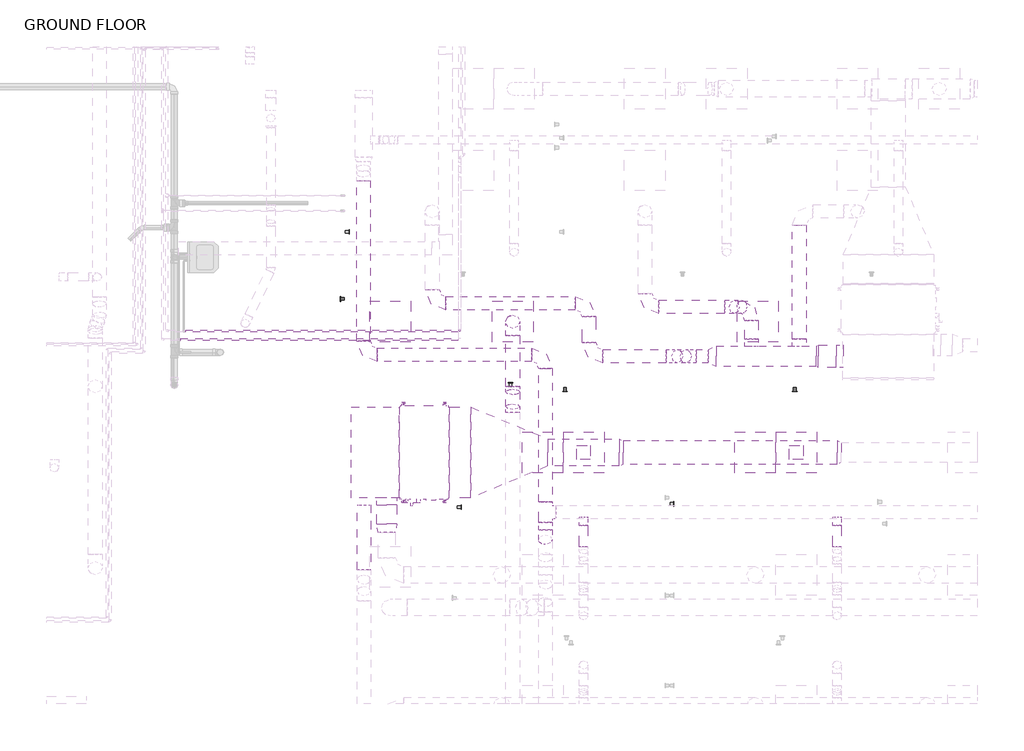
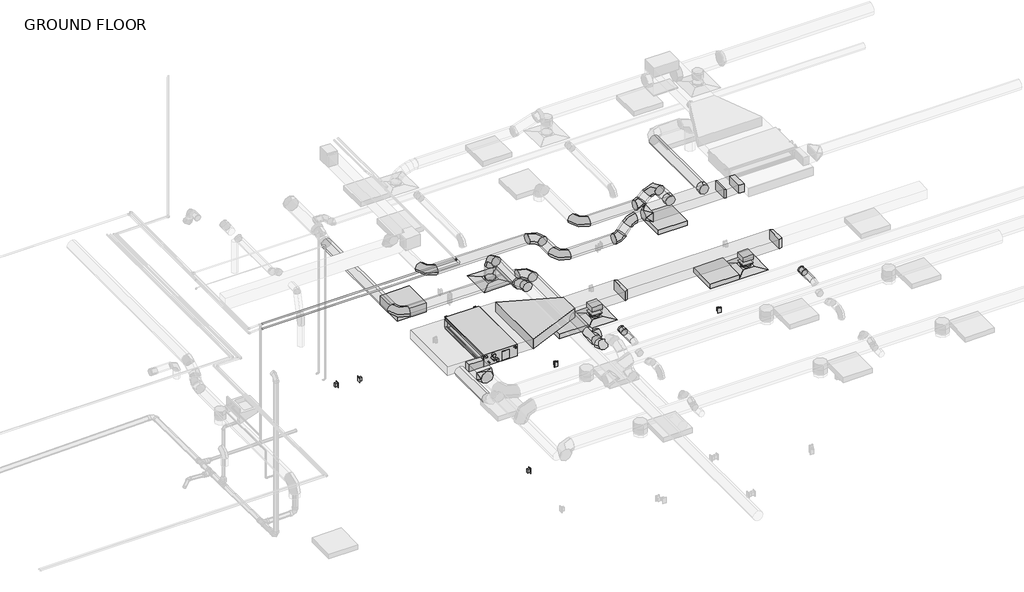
# One storey, part 15 of 22: 31 duct fittings, 28 duct segments, 4 light fixtures, 4 proxies, 3 air terminals, 3 switching devices, 2 pipe segments, 1 electric appliance, 1 pipe fitting.
"""IFC4 building model written with IfcOpenShell, lengths in millimetres."""

from ifc_helpers import new_model, si_unit, point, frame, frame_2d, origin, place, context, project, spatial, polyline, circle_curve, trimmed, segment, composite_curve, outline, extrude, transform, mapped, element, save
from components import air_terminal_e9020785, mechanical_equipment_d478180c, duplex_receptacle_countertop_10251bba, rectangular_takeoff_standard_68f80ab3, rectangular_takeoff_standard_d07ea574, rectangular_takeoff_standard_fde45e03, rectangular_transition_angle_45_degree_0521c937, rectangular_transition_angle_45_degree_85914557, rectangular_transition_angle_45_degree_791ae252, rectangular_transition_angle_45_degree_a1440fe9, rectangular_to_round_transition_angle_45_degree_5a025447, rectangular_to_round_transition_angle_45_degree_f8b25ec9, rectangular_to_round_transition_angle_45_degree_789dc1ad, round_elbow_1_d_fe38274b, round_elbow_1_d_20ab3410, round_elbow_1_d_a253342a, round_elbow_1_d_ab3aa7ba, round_takeoff_standard_d3b0d0f9, round_takeoff_standard_272bb003, round_tee_standard_4a79b710, telephone_outlet_data_plain_18c24199, troffer_corner_insert_2x2_3_lamp_emergency_29e3a813, troffer_corner_insert_2x2_3lamp_e67c7f8f, elbow_generic_standard_c06ac706

model = new_model("IFC4")

# Units and contexts
model_context = context("Model", 3, world=origin())
ifc_project = project(units=[si_unit("LENGTHUNIT", "METRE", prefix="MILLI")], contexts=[model_context])

# Site, building, storey
site = spatial("IfcSite", under=ifc_project)
building = spatial("IfcBuilding", under=site)
storey = spatial("IfcBuildingStorey", under=building, Name="GROUND FLOOR", Elevation=30480.0)

# Air terminals
placement = place(None, origin())
air_terminal_shape = air_terminal_e9020785(model_context)
element("IfcAirTerminal", 1, ObjectType="Supply Diffuser - Rectangular Face Round Neck - Hosted : 24\"x24\" Face 8\" Neck - Hosted", at=placement, inside=storey, context=model_context, shape_type="MappedRepresentation", body=[
    mapped(air_terminal_shape, transform((-799.1454607, 1382.1195005, 33223.2), x_axis=(0.0, -1.0, 0.0), y_axis=(-1.0, 0.0, 0.0), z_axis=(0.0, 0.0, -1.0))),
])
element("IfcAirTerminal", 2, ObjectType="Supply Diffuser - Rectangular Face Round Neck - Hosted : 24\"x24\" Face 8\" Neck - Hosted", at=placement, inside=storey, context=model_context, shape_type="MappedRepresentation", body=[
    mapped(air_terminal_shape, transform((-3970.9704607, 1382.1195005, 33223.2), x_axis=(0.0, -1.0, 0.0), y_axis=(-1.0, 0.0, 0.0), z_axis=(0.0, 0.0, -1.0))),
])
element("IfcAirTerminal", 3, ObjectType="Supply Diffuser - Rectangular Face Round Neck - Hosted : 24\"x24\" Face 8\" Neck - Hosted", at=placement, inside=storey, context=model_context, shape_type="MappedRepresentation", body=[
    mapped(air_terminal_shape, transform((-5028.2454607, 3334.7445005, 33223.2), x_axis=(0.0, -1.0, 0.0), y_axis=(-1.0, 0.0, 0.0), z_axis=(0.0, 0.0, -1.0))),
])

# Proxies
mechanical_equipment_shape = mechanical_equipment_d478180c(model_context)
element("IfcBuildingElementProxy", 4, Name="PEFY-P-NMAU-E_Medium_Static_Ducted : PEFY-P36NMAU-E", ObjectType="PEFY-P-NMAU-E_Medium_Static_Ducted : PEFY-P36NMAU-E", at=placement, inside=storey, context=model_context, shape_type="MappedRepresentation", body=[
    mapped(mechanical_equipment_shape, transform((-6407.5018914, 1372.1072576, 33458.15), x_axis=(0.0, -1.0, 0.0), y_axis=(1.0, 0.0, 0.0), z_axis=(0.0, 0.0, 1.0))),
])
duplex_receptacle_countertop_shape = duplex_receptacle_countertop_10251bba(model_context)
element("IfcBuildingElementProxy", 5, Name="Duplex Receptacle : Countertop", ObjectType="Duplex Receptacle : Countertop", at=placement, inside=storey, context=model_context, shape_type="MappedRepresentation", body=[
    mapped(duplex_receptacle_countertop_shape, transform((-7469.8204607, 4677.7695005, 30937.2), x_axis=(0.0, 1.0, 0.0), y_axis=(0.0, 0.0, 1.0), z_axis=(1.0, 0.0, 0.0))),
])
element("IfcBuildingElementProxy", 6, Name="Duplex Receptacle : Standard", ObjectType="Duplex Receptacle : Standard", at=placement, inside=storey, context=model_context, shape_type="MappedRepresentation", body=[
    mapped(duplex_receptacle_countertop_shape, transform((-5799.7704607, 567.377149, 30937.2), x_axis=(0.0, 1.0, 0.0), y_axis=(0.0, 0.0, 1.0), z_axis=(1.0, 0.0, 0.0))),
])
element("IfcBuildingElementProxy", 7, Name="Duplex Receptacle : Standard", ObjectType="Duplex Receptacle : Standard", at=placement, inside=storey, context=model_context, shape_type="MappedRepresentation", body=[
    mapped(duplex_receptacle_countertop_shape, transform((-5062.4392218, 2420.3445005, 30937.2), x_axis=(-1.0, 0.0, 0.0), y_axis=(0.0, 0.0, 1.0), z_axis=(0.0, 1.0, 0.0))),
])

# Duct fittings
rectangular_takeoff_standard_shape = rectangular_takeoff_standard_68f80ab3(model_context)
element("IfcDuctFitting", 8, ObjectType="Rectangular Takeoff : Standard", at=placement, inside=storey, context=model_context, shape_type="MappedRepresentation", body=[
    mapped(rectangular_takeoff_standard_shape, transform((-101.8689282, 2818.301218, 33947.89375), x_axis=(-1.0, 0.0, 0.0), y_axis=(0.0, 1.0, 0.0), z_axis=(0.0, 0.0, -1.0))),
])
rectangular_takeoff_standard_2_shape = rectangular_takeoff_standard_d07ea574(model_context)
element("IfcDuctFitting", 9, ObjectType="Rectangular Takeoff : Standard", at=placement, inside=storey, context=model_context, shape_type="MappedRepresentation", body=[
    mapped(rectangular_takeoff_standard_2_shape, transform((-799.1454607, 1382.1195005, 33502.6), x_axis=(0.0, 0.0, -1.0), y_axis=(1.0, 0.0, 0.0), z_axis=(0.0, -1.0, 0.0))),
])
element("IfcDuctFitting", 10, ObjectType="Rectangular Takeoff : Standard", at=placement, inside=storey, context=model_context, shape_type="MappedRepresentation", body=[
    mapped(rectangular_takeoff_standard_2_shape, transform((-3970.9704607, 1382.1195005, 33502.6), x_axis=(0.0, 0.0, -1.0), y_axis=(1.0, 0.0, 0.0), z_axis=(0.0, -1.0, 0.0))),
])
rectangular_takeoff_standard_3_shape = rectangular_takeoff_standard_fde45e03(model_context)
element("IfcDuctFitting", 11, ObjectType="Rectangular Takeoff : Standard", at=placement, inside=storey, context=model_context, shape_type="MappedRepresentation", body=[
    mapped(rectangular_takeoff_standard_3_shape, transform((-6907.4143044, 704.2570005, 33617.69375), x_axis=(0.0, -1.0, 0.0), y_axis=(-1.0, 0.0, 0.0), z_axis=(0.0, 0.0, -1.0))),
])
rectangular_transition_angle_45_degree_shape = rectangular_transition_angle_45_degree_0521c937(model_context)
element("IfcDuctFitting", 12, ObjectType="Rectangular Transition - Angle : 45 Degree", at=placement, inside=storey, context=model_context, shape_type="MappedRepresentation", body=[
    mapped(rectangular_transition_angle_45_degree_shape, transform((-471.6175144, 2818.301218, 33947.89375), x_axis=(-1.0, 0.0, 0.0), y_axis=(0.0, -1.0, 0.0), z_axis=(0.0, 0.0, 1.0))),
])
rectangular_transition_angle_45_degree_2_shape = rectangular_transition_angle_45_degree_85914557(model_context)
element("IfcDuctFitting", 13, ObjectType="Rectangular Transition - Angle : 45 Degree", at=placement, inside=storey, context=model_context, shape_type="MappedRepresentation", body=[
    mapped(rectangular_transition_angle_45_degree_2_shape, transform((-5651.3200089, 1382.1195005, 33604.2), x_axis=(1.0, 0.0, 0.0), y_axis=(0.0, 1.0, 0.0), z_axis=(0.0, 0.0, 1.0))),
])
rectangular_transition_angle_45_degree_3_shape = rectangular_transition_angle_45_degree_791ae252(model_context)
element("IfcDuctFitting", 14, ObjectType="Rectangular Transition - Angle : 45 Degree", at=placement, inside=storey, context=model_context, shape_type="MappedRepresentation", body=[
    mapped(rectangular_transition_angle_45_degree_3_shape, transform((-3441.5200089, 1382.1195005, 33604.2), x_axis=(1.0, 0.0, 0.0), y_axis=(0.0, 1.0, 0.0), z_axis=(0.0, 0.0, 1.0))),
])
rectangular_transition_angle_45_degree_4_shape = rectangular_transition_angle_45_degree_a1440fe9(model_context)
element("IfcDuctFitting", 15, ObjectType="Rectangular Transition - Angle : 45 Degree", at=placement, inside=storey, context=model_context, shape_type="MappedRepresentation", body=[
    mapped(rectangular_transition_angle_45_degree_4_shape, transform((-189.5454607, 1382.1195005, 33604.2), x_axis=(1.0, 0.0, 0.0), y_axis=(0.0, 1.0, 0.0), z_axis=(0.0, 0.0, 1.0))),
])
rectangular_to_round_transition_angle_45_degree_shape = rectangular_to_round_transition_angle_45_degree_5a025447(model_context)
element("IfcDuctFitting", 16, ObjectType="Rectangular to Round Transition - Angle : 45 Degree", at=placement, inside=storey, context=model_context, shape_type="MappedRepresentation", body=[
    mapped(rectangular_to_round_transition_angle_45_degree_shape, transform((-799.1454607, 1382.1195005, 33327.975), x_axis=(0.0, 0.0, -1.0), y_axis=(1.0, 0.0, 0.0), z_axis=(0.0, -1.0, 0.0))),
])
element("IfcDuctFitting", 17, ObjectType="Rectangular to Round Transition - Angle : 45 Degree", at=placement, inside=storey, context=model_context, shape_type="MappedRepresentation", body=[
    mapped(rectangular_to_round_transition_angle_45_degree_shape, transform((-3970.9704607, 1382.1195005, 33327.975), x_axis=(0.0, 0.0, -1.0), y_axis=(1.0, 0.0, 0.0), z_axis=(0.0, -1.0, 0.0))),
])
rectangular_to_round_transition_angle_45_degree_2_shape = rectangular_to_round_transition_angle_45_degree_f8b25ec9(model_context)
element("IfcDuctFitting", 18, ObjectType="Rectangular to Round Transition - Angle : 45 Degree", at=placement, inside=storey, context=model_context, shape_type="MappedRepresentation", body=[
    mapped(rectangular_to_round_transition_angle_45_degree_2_shape, transform((-1989.2675144, 2818.301218, 33947.89375), x_axis=(-1.0, 0.0, 0.0), y_axis=(0.0, -1.0, 0.0), z_axis=(0.0, 0.0, 1.0))),
])
rectangular_to_round_transition_angle_45_degree_3_shape = rectangular_to_round_transition_angle_45_degree_789dc1ad(model_context)
element("IfcDuctFitting", 19, ObjectType="Rectangular to Round Transition - Angle : 45 Degree", at=placement, inside=storey, context=model_context, shape_type="MappedRepresentation", body=[
    mapped(rectangular_to_round_transition_angle_45_degree_3_shape, transform((-6907.4143044, 315.3195005, 33617.69375), x_axis=(0.0, -1.0, 0.0), y_axis=(1.0, 0.0, 0.0), z_axis=(0.0, 0.0, 1.0))),
])
round_elbow_1_d_shape = round_elbow_1_d_fe38274b(model_context)
element("IfcDuctFitting", 20, ObjectType="Round Elbow : 1 D", at=placement, inside=storey, context=model_context, shape_type="MappedRepresentation", body=[
    mapped(round_elbow_1_d_shape, transform((-2636.3455027, 2818.301218, 33629.6), x_axis=(1.0, 0.0, 0.0), y_axis=(0.0, 0.0, 1.0), z_axis=(0.0, -1.0, 0.0))),
])
element("IfcDuctFitting", 21, ObjectType="Round Elbow : 1 D", at=placement, inside=storey, context=model_context, shape_type="MappedRepresentation", body=[
    mapped(round_elbow_1_d_shape, transform((-2387.6671708, 2818.301218, 33947.89375), x_axis=(0.6156614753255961, 0.0, 0.7880107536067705), y_axis=(0.7880107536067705, 0.0, -0.6156614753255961), z_axis=(0.0, 1.0, 0.0))),
])
round_elbow_1_d_2_shape = round_elbow_1_d_20ab3410(model_context)
element("IfcDuctFitting", 22, ObjectType="Round Elbow : 1 D", at=placement, inside=storey, context=model_context, shape_type="MappedRepresentation", body=[
    mapped(round_elbow_1_d_2_shape, transform((-5028.2454607, 2325.0945005, 33743.160826), x_axis=(0.0, -1.0, 0.0), y_axis=(0.0, 0.0, 1.0), z_axis=(-1.0, 0.0, 0.0))),
])
element("IfcDuctFitting", 23, ObjectType="Round Elbow : 1 D", at=placement, inside=storey, context=model_context, shape_type="MappedRepresentation", body=[
    mapped(round_elbow_1_d_2_shape, transform((-5028.2454607, 2026.1149962, 33877.25), x_axis=(0.0, -0.9124365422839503, 0.4092182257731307), y_axis=(0.0, -0.4092182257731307, -0.9124365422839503), z_axis=(1.0, 0.0, 0.0))),
])
round_elbow_1_d_3_shape = round_elbow_1_d_a253342a(model_context)
element("IfcDuctFitting", 24, ObjectType="Round Elbow : 1 D", at=placement, inside=storey, context=model_context, shape_type="MappedRepresentation", body=[
    mapped(round_elbow_1_d_3_shape, transform((-5028.2454607, 3334.7445005, 33743.160826), x_axis=(0.0, 0.0, 1.0), y_axis=(0.0, -1.0, 0.0), z_axis=(1.0, 0.0, 0.0))),
])
element("IfcDuctFitting", 25, ObjectType="Round Elbow : 1 D", at=placement, inside=storey, context=model_context, shape_type="MappedRepresentation", body=[
    mapped(round_elbow_1_d_3_shape, transform((-6228.3954607, 3610.9695005, 33629.6), x_axis=(0.0, -1.0, 0.0), y_axis=(1.0, 0.0, 0.0), z_axis=(0.0, 0.0, 1.0))),
])
element("IfcDuctFitting", 26, ObjectType="Round Elbow : 1 D", at=placement, inside=storey, context=model_context, shape_type="MappedRepresentation", body=[
    mapped(round_elbow_1_d_3_shape, transform((-3891.5954607, 3610.9695005, 33629.6), x_axis=(0.0, 1.0, 0.0), y_axis=(-1.0, 0.0, 0.0), z_axis=(0.0, 0.0, 1.0))),
])
element("IfcDuctFitting", 27, ObjectType="Round Elbow : 1 D", at=placement, inside=storey, context=model_context, shape_type="MappedRepresentation", body=[
    mapped(round_elbow_1_d_3_shape, transform((-3891.5954607, 2818.301218, 33629.6), x_axis=(0.0, -1.0, 0.0), y_axis=(1.0, 0.0, 0.0), z_axis=(0.0, 0.0, 1.0))),
])
element("IfcDuctFitting", 28, ObjectType="Round Elbow : 1 D", at=placement, inside=storey, context=model_context, shape_type="MappedRepresentation", body=[
    mapped(round_elbow_1_d_3_shape, transform((-4541.976464, 2841.896647, 33528.0), x_axis=(0.0, 1.0, 0.0), y_axis=(-1.0, 0.0, 0.0), z_axis=(0.0, 0.0, 1.0))),
])
element("IfcDuctFitting", 29, ObjectType="Round Elbow : 1 D", at=placement, inside=storey, context=model_context, shape_type="MappedRepresentation", body=[
    mapped(round_elbow_1_d_3_shape, transform((-7253.9204607, 2841.896647, 33528.0), x_axis=(0.0, -1.0, 0.0), y_axis=(1.0, 0.0, 0.0), z_axis=(0.0, 0.0, 1.0))),
])
element("IfcDuctFitting", 30, ObjectType="Round Elbow : 1 D", at=placement, inside=storey, context=model_context, shape_type="MappedRepresentation", body=[
    mapped(round_elbow_1_d_3_shape, transform((-3056.5704607, 3554.901218, 33629.6), x_axis=(0.0, -1.0, 0.0), y_axis=(1.0, 0.0, 0.0), z_axis=(0.0, 0.0, 1.0))),
])
element("IfcDuctFitting", 31, ObjectType="Round Elbow : 1 D", at=placement, inside=storey, context=model_context, shape_type="MappedRepresentation", body=[
    mapped(round_elbow_1_d_3_shape, transform((-1465.5538665, 3554.901218, 33947.89375), x_axis=(0.7071067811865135, 0.0, 0.7071067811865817), y_axis=(0.0, -1.0000000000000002, 0.0), z_axis=(0.7071067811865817, 0.0, -0.7071067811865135))),
])
round_elbow_1_d_4_shape = round_elbow_1_d_ab3aa7ba(model_context)
element("IfcDuctFitting", 32, ObjectType="Round Elbow : 1 D", at=placement, inside=storey, context=model_context, shape_type="MappedRepresentation", body=[
    mapped(round_elbow_1_d_4_shape, transform((-4541.976464, 139.5450374, 33528.0), x_axis=(0.0, 0.7071067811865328, -0.7071067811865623), y_axis=(0.0, 0.7071067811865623, 0.7071067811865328), z_axis=(1.0, 0.0, 0.0))),
])
element("IfcDuctFitting", 33, ObjectType="Round Elbow : 1 D", at=placement, inside=storey, context=model_context, shape_type="MappedRepresentation", body=[
    mapped(round_elbow_1_d_4_shape, transform((-1783.8476165, 3554.901218, 33629.6), x_axis=(-0.7071067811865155, 0.0, -0.7071067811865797), y_axis=(-0.7071067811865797, 0.0, 0.7071067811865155), z_axis=(0.0, 1.0, 0.0))),
])
round_takeoff_standard_shape = round_takeoff_standard_d3b0d0f9(model_context)
element("IfcDuctFitting", 34, ObjectType="Round Takeoff : Standard", at=placement, inside=storey, context=model_context, shape_type="MappedRepresentation", body=[
    mapped(round_takeoff_standard_shape, transform((-754.6339071, 2970.701218, 33947.89375), x_axis=(0.0, 1.0, 0.0), y_axis=(1.0, 0.0, 0.0), z_axis=(0.0, 0.0, -1.0))),
])
element("IfcDuctFitting", 35, ObjectType="Round Takeoff : Standard", at=placement, inside=storey, context=model_context, shape_type="MappedRepresentation", body=[
    mapped(round_takeoff_standard_shape, transform((-1465.5538665, 2970.701218, 33947.89375), x_axis=(0.0, 1.0, 0.0), y_axis=(1.0, 0.0, 0.0), z_axis=(0.0, 0.0, -1.0))),
])
round_takeoff_standard_2_shape = round_takeoff_standard_272bb003(model_context)
element("IfcDuctFitting", 36, ObjectType="Round Takeoff : Standard", at=placement, inside=storey, context=model_context, shape_type="MappedRepresentation", body=[
    mapped(round_takeoff_standard_2_shape, transform((-3970.9704607, 391.7414929, 33528.0), x_axis=(0.0, -1.0, 0.0), y_axis=(-1.0, 0.0, 0.0), z_axis=(0.0, 0.0, -1.0))),
])
element("IfcDuctFitting", 37, ObjectType="Round Takeoff : Standard", at=placement, inside=storey, context=model_context, shape_type="MappedRepresentation", body=[
    mapped(round_takeoff_standard_2_shape, transform((-189.5454607, 391.7414929, 33528.0), x_axis=(0.0, -1.0, 0.0), y_axis=(-1.0, 0.0, 0.0), z_axis=(0.0, 0.0, -1.0))),
])
round_tee_standard_shape = round_tee_standard_4a79b710(model_context)
element("IfcDuctFitting", 38, ObjectType="Round Tee : Standard", at=placement, inside=storey, context=model_context, shape_type="MappedRepresentation", body=[
    mapped(round_tee_standard_shape, transform((-4541.976464, 493.3414929, 33528.0), x_axis=(0.0, 1.0, 0.0), y_axis=(-1.0, 0.0, 0.0), z_axis=(0.0, 0.0, 1.0))),
])

# Duct segments
element("IfcDuctSegment", 39, ObjectType="Mitered Elbows / Taps", at=placement, inside=storey, context=model_context, shape_type="SweptSolid", body=[
    extrude(outline(polyline([(-6725.0018914, 2059.9820005), (-6725.0018914, 704.2570005), (-7438.8450089, 704.2570005), (-7438.8450089, 2059.9820005), (-6725.0018914, 2059.9820005)])), frame((0.0, 0.0, 33528.0), z_axis=(0.0, 0.0, 1.0), x_axis=(1.0, 0.0, 0.0)), (0.0, 0.0, 1.0), 179.3875),
])
element("IfcDuctSegment", 40, ObjectType="Mitered Elbows / Taps", at=placement, inside=storey, context=model_context, shape_type="SweptSolid", body=[
    extrude(outline(polyline([(-5978.8768914, 704.2570005), (-5978.8768914, 2059.9820005), (-5651.3200089, 2059.9820005), (-5651.3200089, 704.2570005), (-5978.8768914, 704.2570005)])), frame((0.0, 0.0, 33501.0125), z_axis=(0.0, 0.0, 1.0), x_axis=(1.0, 0.0, 0.0)), (0.0, 0.0, 1.0), 206.375),
])
element("IfcDuctSegment", 41, ObjectType="Mitered Elbows / Taps", at=placement, inside=storey, context=model_context, shape_type="SweptSolid", body=[
    extrude(outline(polyline([(-4505.3833638, 1178.9195005), (-4505.3833638, 1585.3195005), (-3441.5200089, 1585.3195005), (-3441.5200089, 1178.9195005), (-4505.3833638, 1178.9195005)])), frame((0.0, 0.0, 33502.6), z_axis=(0.0, 0.0, 1.0), x_axis=(1.0, 0.0, 0.0)), (0.0, 0.0, 1.0), 203.2),
])
element("IfcDuctSegment", 42, ObjectType="Mitered Elbows / Taps", at=placement, inside=storey, context=model_context, shape_type="SweptSolid", body=[
    extrude(outline(polyline([(-3380.1989844, 1204.3195005), (-3380.1989844, 1559.9195005), (-189.5454607, 1559.9195005), (-189.5454607, 1204.3195005), (-3380.1989844, 1204.3195005)])), frame((0.0, 0.0, 33502.6), z_axis=(0.0, 0.0, 1.0), x_axis=(1.0, 0.0, 0.0)), (0.0, 0.0, 1.0), 203.2),
])
element("IfcDuctSegment", 43, ObjectType="Mitered Elbows / Taps", at=placement, inside=storey, context=model_context, shape_type="SweptSolid", body=[
    extrude(outline(polyline([(-900.7454607, 1483.7195005), (-697.5454607, 1483.7195005), (-697.5454607, 1280.5195005), (-900.7454607, 1280.5195005), (-900.7454607, 1483.7195005)])), frame((0.0, 0.0, 33327.975), z_axis=(0.0, 0.0, 1.0), x_axis=(1.0, 0.0, 0.0)), (0.0, 0.0, 1.0), 73.025),
])
element("IfcDuctSegment", 44, ObjectType="Mitered Elbows / Taps", at=placement, inside=storey, context=model_context, shape_type="SweptSolid", body=[
    extrude(outline(polyline([(-4072.5704607, 1483.7195005), (-3869.3704607, 1483.7195005), (-3869.3704607, 1280.5195005), (-4072.5704607, 1280.5195005), (-4072.5704607, 1483.7195005)])), frame((0.0, 0.0, 33327.975), z_axis=(0.0, 0.0, 1.0), x_axis=(1.0, 0.0, 0.0)), (0.0, 0.0, 1.0), 73.025),
])
element("IfcDuctSegment", 45, ObjectType="Mitered Elbows / Taps", at=placement, inside=storey, context=model_context, shape_type="SweptSolid", body=[
    extrude(outline(polyline([(-1989.2675144, 2665.901218), (-1989.2675144, 2970.701218), (-502.2780266, 2970.701218), (-502.2780266, 2665.901218), (-1989.2675144, 2665.901218)])), frame((0.0, 0.0, 33846.29375), z_axis=(0.0, 0.0, 1.0), x_axis=(1.0, 0.0, 0.0)), (0.0, 0.0, 1.0), 203.2),
])
element("IfcDuctSegment", 46, ObjectType="Mitered Elbows / Taps", at=placement, inside=storey, context=model_context, shape_type="SweptSolid", body=[
    extrude(outline(polyline([(-7059.8143044, 602.6570005), (-6755.0143044, 602.6570005), (-6755.0143044, 315.3195005), (-7059.8143044, 315.3195005), (-7059.8143044, 602.6570005)])), frame((0.0, 0.0, 33541.49375), z_axis=(0.0, 0.0, 1.0), x_axis=(1.0, 0.0, 0.0)), (0.0, 0.0, 1.0), 152.4),
])
element("IfcDuctSegment", 47, ObjectType="Mitered Elbows / Taps", at=placement, inside=storey, context=model_context, shape_type="SweptSolid", body=[
    extrude(outline(polyline([(-471.6175144, 2653.201218), (-471.6175144, 2983.401218), (-203.4689282, 2983.401218), (-203.4689282, 2653.201218), (-471.6175144, 2653.201218)])), frame((0.0, 0.0, 33858.99375), z_axis=(0.0, 0.0, 1.0), x_axis=(1.0, 0.0, 0.0)), (0.0, 0.0, 1.0), 177.8),
])
element("IfcDuctSegment", 48, ObjectType="Taps / Short Radius", at=placement, inside=storey, context=model_context, shape_type="SweptSolid", body=[
    extrude(outline(composite_curve([segment(trimmed(circle_curve(frame_2d((-5028.2454607, 3334.7445005)), 101.6), [point((-5129.8454607, 3334.7445005))], [point((-5028.2454607, 3436.3445005))], False, "CARTESIAN"), True, "CONTINUOUS"), segment(trimmed(circle_curve(frame_2d((-5028.2454607, 3334.7445005)), 101.6), [point((-5028.2454607, 3436.3445005))], [point((-4926.6454607, 3334.7445005))], False, "CARTESIAN"), True, "CONTINUOUS"), segment(trimmed(circle_curve(frame_2d((-5028.2454607, 3334.7445005)), 101.6), [point((-4926.6454607, 3334.7445005))], [point((-5028.2454607, 3233.1445005))], False, "CARTESIAN"), True, "CONTINUOUS"), segment(trimmed(circle_curve(frame_2d((-5028.2454607, 3334.7445005)), 101.6), [point((-5028.2454607, 3233.1445005))], [point((-5129.8454607, 3334.7445005))], False, "CARTESIAN"), True, "CONTINUOUS")], self_intersect=False)), frame((0.0, 0.0, 33277.175), z_axis=(0.0, 0.0, 1.0), x_axis=(1.0, 0.0, 0.0)), (0.0, 0.0, 1.0), 262.785826),
])
element("IfcDuctSegment", 49, ObjectType="Taps / Short Radius", at=placement, inside=storey, context=model_context, shape_type="SweptSolid", body=[
    extrude(outline(composite_curve([segment(trimmed(circle_curve(frame_2d((3610.9695005, 33629.6)), 101.6), [point((3509.3695005, 33629.6))], [point((3610.9695005, 33731.2))], False, "CARTESIAN"), True, "CONTINUOUS"), segment(trimmed(circle_curve(frame_2d((3610.9695005, 33629.6)), 101.6), [point((3610.9695005, 33731.2))], [point((3712.5695005, 33629.6))], False, "CARTESIAN"), True, "CONTINUOUS"), segment(trimmed(circle_curve(frame_2d((3610.9695005, 33629.6)), 101.6), [point((3712.5695005, 33629.6))], [point((3610.9695005, 33528.0))], False, "CARTESIAN"), True, "CONTINUOUS"), segment(trimmed(circle_curve(frame_2d((3610.9695005, 33629.6)), 101.6), [point((3610.9695005, 33528.0))], [point((3509.3695005, 33629.6))], False, "CARTESIAN"), True, "CONTINUOUS")], self_intersect=False)), frame((-6025.1954607, 0.0, 0.0), z_axis=(1.0, 0.0, 0.0), x_axis=(0.0, 1.0, 0.0)), (0.0, 0.0, 1.0), 1930.4),
])
element("IfcDuctSegment", 50, ObjectType="Taps / Short Radius", at=placement, inside=storey, context=model_context, shape_type="SweptSolid", body=[
    extrude(outline(composite_curve([segment(trimmed(circle_curve(frame_2d((33629.6, -3891.5954607)), 101.6), [point((33629.6, -3993.1954607))], [point((33528.0, -3891.5954607))], False, "CARTESIAN"), True, "CONTINUOUS"), segment(trimmed(circle_curve(frame_2d((33629.6, -3891.5954607)), 101.6), [point((33528.0, -3891.5954607))], [point((33629.6, -3789.9954607))], False, "CARTESIAN"), True, "CONTINUOUS"), segment(trimmed(circle_curve(frame_2d((33629.6, -3891.5954607)), 101.6), [point((33629.6, -3789.9954607))], [point((33731.2, -3891.5954607))], False, "CARTESIAN"), True, "CONTINUOUS"), segment(trimmed(circle_curve(frame_2d((33629.6, -3891.5954607)), 101.6), [point((33731.2, -3891.5954607))], [point((33629.6, -3993.1954607))], False, "CARTESIAN"), True, "CONTINUOUS")], self_intersect=False)), frame((0.0, 3021.501218, 0.0), z_axis=(0.0, 1.0, 0.0), x_axis=(0.0, 0.0, 1.0)), (0.0, 0.0, 1.0), 386.2682826),
])
element("IfcDuctSegment", 51, ObjectType="Taps / Short Radius", at=placement, inside=storey, context=model_context, shape_type="SweptSolid", body=[
    extrude(outline(composite_curve([segment(trimmed(circle_curve(frame_2d((33947.89375, -754.6339071)), 101.6), [point((33947.89375, -856.2339071))], [point((33846.29375, -754.6339071))], False, "CARTESIAN"), True, "CONTINUOUS"), segment(trimmed(circle_curve(frame_2d((33947.89375, -754.6339071)), 101.6), [point((33846.29375, -754.6339071))], [point((33947.89375, -653.0339071))], False, "CARTESIAN"), True, "CONTINUOUS"), segment(trimmed(circle_curve(frame_2d((33947.89375, -754.6339071)), 101.6), [point((33947.89375, -653.0339071))], [point((34049.49375, -754.6339071))], False, "CARTESIAN"), True, "CONTINUOUS"), segment(trimmed(circle_curve(frame_2d((33947.89375, -754.6339071)), 101.6), [point((34049.49375, -754.6339071))], [point((33947.89375, -856.2339071))], False, "CARTESIAN"), True, "CONTINUOUS")], self_intersect=False)), frame((0.0, 3072.301218, 0.0), z_axis=(0.0, 1.0, 0.0), x_axis=(0.0, 0.0, 1.0)), (0.0, 0.0, 1.0), 1707.0682826),
])
element("IfcDuctSegment", 52, ObjectType="Taps / Short Radius", at=placement, inside=storey, context=model_context, shape_type="SweptSolid", body=[
    extrude(outline(composite_curve([segment(trimmed(circle_curve(frame_2d((33617.69375, -7247.6134283)), 101.6), [point((33617.69375, -7349.2134283))], [point((33516.09375, -7247.6134283))], False, "CARTESIAN"), True, "CONTINUOUS"), segment(trimmed(circle_curve(frame_2d((33617.69375, -7247.6134283)), 101.6), [point((33516.09375, -7247.6134283))], [point((33617.69375, -7146.0134283))], False, "CARTESIAN"), True, "CONTINUOUS"), segment(trimmed(circle_curve(frame_2d((33617.69375, -7247.6134283)), 101.6), [point((33617.69375, -7146.0134283))], [point((33719.29375, -7247.6134283))], False, "CARTESIAN"), True, "CONTINUOUS"), segment(trimmed(circle_curve(frame_2d((33617.69375, -7247.6134283)), 101.6), [point((33719.29375, -7247.6134283))], [point((33617.69375, -7349.2134283))], False, "CARTESIAN"), True, "CONTINUOUS")], self_intersect=False)), frame((0.0, -372.4290959, 0.0), z_axis=(0.0, 1.0, 0.0), x_axis=(0.0, 0.0, 1.0)), (0.0, 0.0, 1.0), 975.0860964),
])
element("IfcDuctSegment", 53, ObjectType="Taps / Short Radius", at=placement, inside=storey, context=model_context, shape_type="SweptSolid", body=[
    extrude(outline(composite_curve([segment(trimmed(circle_curve(frame_2d((33528.0, -4541.976464)), 101.6), [point((33528.0, -4440.376464))], [point((33629.6, -4541.976464))], False, "CARTESIAN"), True, "CONTINUOUS"), segment(trimmed(circle_curve(frame_2d((33528.0, -4541.976464)), 101.6), [point((33629.6, -4541.976464))], [point((33528.0, -4643.576464))], False, "CARTESIAN"), True, "CONTINUOUS"), segment(trimmed(circle_curve(frame_2d((33528.0, -4541.976464)), 101.6), [point((33528.0, -4643.576464))], [point((33426.4, -4541.976464))], False, "CARTESIAN"), True, "CONTINUOUS"), segment(trimmed(circle_curve(frame_2d((33528.0, -4541.976464)), 101.6), [point((33426.4, -4541.976464))], [point((33528.0, -4440.376464))], False, "CARTESIAN"), True, "CONTINUOUS")], self_intersect=False)), frame((0.0, 645.7414929, 0.0), z_axis=(0.0, 1.0, 0.0), x_axis=(0.0, 0.0, 1.0)), (0.0, 0.0, 1.0), 1992.955154),
])
element("IfcDuctSegment", 54, ObjectType="Taps / Short Radius", at=placement, inside=storey, context=model_context, shape_type="SweptSolid", body=[
    extrude(outline(composite_curve([segment(trimmed(circle_curve(frame_2d((2841.896647, 33528.0)), 101.6), [point((2943.496647, 33528.0))], [point((2841.896647, 33426.4))], False, "CARTESIAN"), True, "CONTINUOUS"), segment(trimmed(circle_curve(frame_2d((2841.896647, 33528.0)), 101.6), [point((2841.896647, 33426.4))], [point((2740.296647, 33528.0))], False, "CARTESIAN"), True, "CONTINUOUS"), segment(trimmed(circle_curve(frame_2d((2841.896647, 33528.0)), 101.6), [point((2740.296647, 33528.0))], [point((2841.896647, 33629.6))], False, "CARTESIAN"), True, "CONTINUOUS"), segment(trimmed(circle_curve(frame_2d((2841.896647, 33528.0)), 101.6), [point((2841.896647, 33629.6))], [point((2943.496647, 33528.0))], False, "CARTESIAN"), True, "CONTINUOUS")], self_intersect=False)), frame((-7050.7204607, 0.0, 0.0), z_axis=(1.0, 0.0, 0.0), x_axis=(0.0, 1.0, 0.0)), (0.0, 0.0, 1.0), 2305.5439967),
])
element("IfcDuctSegment", 55, ObjectType="Taps / Short Radius", at=placement, inside=storey, context=model_context, shape_type="SweptSolid", body=[
    extrude(outline(composite_curve([segment(trimmed(circle_curve(frame_2d((33528.0, -7253.9204607)), 101.6), [point((33528.0, -7355.5204607))], [point((33426.4, -7253.9204607))], False, "CARTESIAN"), True, "CONTINUOUS"), segment(trimmed(circle_curve(frame_2d((33528.0, -7253.9204607)), 101.6), [point((33426.4, -7253.9204607))], [point((33528.0, -7152.3204607))], False, "CARTESIAN"), True, "CONTINUOUS"), segment(trimmed(circle_curve(frame_2d((33528.0, -7253.9204607)), 101.6), [point((33528.0, -7152.3204607))], [point((33629.6, -7253.9204607))], False, "CARTESIAN"), True, "CONTINUOUS"), segment(trimmed(circle_curve(frame_2d((33528.0, -7253.9204607)), 101.6), [point((33629.6, -7253.9204607))], [point((33528.0, -7355.5204607))], False, "CARTESIAN"), True, "CONTINUOUS")], self_intersect=False)), frame((0.0, 3045.096647, 0.0), z_axis=(0.0, 1.0, 0.0), x_axis=(0.0, 0.0, 1.0)), (0.0, 0.0, 1.0), 2396.604045),
])
element("IfcDuctSegment", 56, ObjectType="Taps / Short Radius", at=placement, inside=storey, context=model_context, shape_type="SweptSolid", body=[
    extrude(outline(composite_curve([segment(trimmed(circle_curve(frame_2d((33528.0, -3970.9704607)), 63.5), [point((33528.0, -3907.4704607))], [point((33591.5, -3970.9704607))], False, "CARTESIAN"), True, "CONTINUOUS"), segment(trimmed(circle_curve(frame_2d((33528.0, -3970.9704607)), 63.5), [point((33591.5, -3970.9704607))], [point((33528.0, -4034.4704607))], False, "CARTESIAN"), True, "CONTINUOUS"), segment(trimmed(circle_curve(frame_2d((33528.0, -3970.9704607)), 63.5), [point((33528.0, -4034.4704607))], [point((33464.5, -3970.9704607))], False, "CARTESIAN"), True, "CONTINUOUS"), segment(trimmed(circle_curve(frame_2d((33528.0, -3970.9704607)), 63.5), [point((33464.5, -3970.9704607))], [point((33528.0, -3907.4704607))], False, "CARTESIAN"), True, "CONTINUOUS")], self_intersect=False)), frame((0.0, -23.6803249, 0.0), z_axis=(0.0, 1.0, 0.0), x_axis=(0.0, 0.0, 1.0)), (0.0, 0.0, 1.0), 313.8218179),
])
element("IfcDuctSegment", 57, ObjectType="Taps / Short Radius", at=placement, inside=storey, context=model_context, shape_type="SweptSolid", body=[
    extrude(outline(composite_curve([segment(trimmed(circle_curve(frame_2d((33528.0, -4541.976464)), 101.6), [point((33528.0, -4440.376464))], [point((33629.6, -4541.976464))], False, "CARTESIAN"), True, "CONTINUOUS"), segment(trimmed(circle_curve(frame_2d((33528.0, -4541.976464)), 101.6), [point((33629.6, -4541.976464))], [point((33528.0, -4643.576464))], False, "CARTESIAN"), True, "CONTINUOUS"), segment(trimmed(circle_curve(frame_2d((33528.0, -4541.976464)), 101.6), [point((33528.0, -4643.576464))], [point((33426.4, -4541.976464))], False, "CARTESIAN"), True, "CONTINUOUS"), segment(trimmed(circle_curve(frame_2d((33528.0, -4541.976464)), 101.6), [point((33426.4, -4541.976464))], [point((33528.0, -4440.376464))], False, "CARTESIAN"), True, "CONTINUOUS")], self_intersect=False)), frame((0.0, 223.7132333, 0.0), z_axis=(0.0, 1.0, 0.0), x_axis=(0.0, 0.0, 1.0)), (0.0, 0.0, 1.0), 117.2282596),
])
element("IfcDuctSegment", 58, ObjectType="Taps / Short Radius", at=placement, inside=storey, context=model_context, shape_type="SweptSolid", body=[
    extrude(outline(composite_curve([segment(trimmed(circle_curve(frame_2d((33528.0, -189.5454607)), 63.5), [point((33528.0, -126.0454607))], [point((33591.5, -189.5454607))], False, "CARTESIAN"), True, "CONTINUOUS"), segment(trimmed(circle_curve(frame_2d((33528.0, -189.5454607)), 63.5), [point((33591.5, -189.5454607))], [point((33528.0, -253.0454607))], False, "CARTESIAN"), True, "CONTINUOUS"), segment(trimmed(circle_curve(frame_2d((33528.0, -189.5454607)), 63.5), [point((33528.0, -253.0454607))], [point((33464.5, -189.5454607))], False, "CARTESIAN"), True, "CONTINUOUS"), segment(trimmed(circle_curve(frame_2d((33528.0, -189.5454607)), 63.5), [point((33464.5, -189.5454607))], [point((33528.0, -126.0454607))], False, "CARTESIAN"), True, "CONTINUOUS")], self_intersect=False)), frame((0.0, -23.6803249, 0.0), z_axis=(0.0, 1.0, 0.0), x_axis=(0.0, 0.0, 1.0)), (0.0, 0.0, 1.0), 313.8218179),
])
element("IfcDuctSegment", 59, ObjectType="Taps / Short Radius", at=placement, inside=storey, context=model_context, shape_type="SweptSolid", body=[
    extrude(outline(composite_curve([segment(trimmed(circle_curve(frame_2d((2818.301218, 33629.6)), 101.6), [point((2716.701218, 33629.6))], [point((2818.301218, 33731.2))], False, "CARTESIAN"), True, "CONTINUOUS"), segment(trimmed(circle_curve(frame_2d((2818.301218, 33629.6)), 101.6), [point((2818.301218, 33731.2))], [point((2919.901218, 33629.6))], False, "CARTESIAN"), True, "CONTINUOUS"), segment(trimmed(circle_curve(frame_2d((2818.301218, 33629.6)), 101.6), [point((2919.901218, 33629.6))], [point((2818.301218, 33528.0))], False, "CARTESIAN"), True, "CONTINUOUS"), segment(trimmed(circle_curve(frame_2d((2818.301218, 33629.6)), 101.6), [point((2818.301218, 33528.0))], [point((2716.701218, 33629.6))], False, "CARTESIAN"), True, "CONTINUOUS")], self_intersect=False)), frame((-3688.3954607, 0.0, 0.0), z_axis=(1.0, 0.0, 0.0), x_axis=(0.0, 1.0, 0.0)), (0.0, 0.0, 1.0), 952.942696),
])
element("IfcDuctSegment", 60, ObjectType="Taps / Short Radius", at=placement, inside=storey, context=model_context, shape_type="SweptSolid", body=[
    extrude(outline(composite_curve([segment(trimmed(circle_curve(frame_2d((0.0, 101.6)), 101.6), [point((0.0, 0.0))], [point((-101.6, 101.6))], False, "CARTESIAN"), True, "CONTINUOUS"), segment(trimmed(circle_curve(frame_2d((0.0, 101.6)), 101.6), [point((-101.6, 101.6))], [point((0.0, 203.2))], False, "CARTESIAN"), True, "CONTINUOUS"), segment(trimmed(circle_curve(frame_2d((0.0, 101.6)), 101.6), [point((0.0, 203.2))], [point((101.6, 101.6))], False, "CARTESIAN"), True, "CONTINUOUS"), segment(trimmed(circle_curve(frame_2d((0.0, 101.6)), 101.6), [point((101.6, 101.6))], [point((0.0, 0.0))], False, "CARTESIAN"), True, "CONTINUOUS")], self_intersect=False)), frame((-2575.3289795, 2716.701218, 33707.6975882), z_axis=(0.6156614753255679, 0.0, 0.7880107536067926), x_axis=(0.7880107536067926, 0.0, -0.6156614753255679)), (0.0, 0.0, 1.0), 205.7060425),
])
element("IfcDuctSegment", 61, ObjectType="Taps / Short Radius", at=placement, inside=storey, context=model_context, shape_type="SweptSolid", body=[
    extrude(outline(composite_curve([segment(trimmed(circle_curve(frame_2d((2818.301218, 33947.89375)), 101.6), [point((2919.901218, 33947.89375))], [point((2818.301218, 33846.29375))], False, "CARTESIAN"), True, "CONTINUOUS"), segment(trimmed(circle_curve(frame_2d((2818.301218, 33947.89375)), 101.6), [point((2818.301218, 33846.29375))], [point((2716.701218, 33947.89375))], False, "CARTESIAN"), True, "CONTINUOUS"), segment(trimmed(circle_curve(frame_2d((2818.301218, 33947.89375)), 101.6), [point((2716.701218, 33947.89375))], [point((2818.301218, 34049.49375))], False, "CARTESIAN"), True, "CONTINUOUS"), segment(trimmed(circle_curve(frame_2d((2818.301218, 33947.89375)), 101.6), [point((2818.301218, 34049.49375))], [point((2919.901218, 33947.89375))], False, "CARTESIAN"), True, "CONTINUOUS")], self_intersect=False)), frame((-2288.5599088, 0.0, 0.0), z_axis=(1.0, 0.0, 0.0), x_axis=(0.0, 1.0, 0.0)), (0.0, 0.0, 1.0), 176.6503454),
])
element("IfcDuctSegment", 62, ObjectType="Taps / Short Radius", at=placement, inside=storey, context=model_context, shape_type="SweptSolid", body=[
    extrude(outline(composite_curve([segment(trimmed(circle_curve(frame_2d((33947.89375, -1465.5538665)), 101.6), [point((33947.89375, -1567.1538665))], [point((33846.29375, -1465.5538665))], False, "CARTESIAN"), True, "CONTINUOUS"), segment(trimmed(circle_curve(frame_2d((33947.89375, -1465.5538665)), 101.6), [point((33846.29375, -1465.5538665))], [point((33947.89375, -1363.9538665))], False, "CARTESIAN"), True, "CONTINUOUS"), segment(trimmed(circle_curve(frame_2d((33947.89375, -1465.5538665)), 101.6), [point((33947.89375, -1363.9538665))], [point((34049.49375, -1465.5538665))], False, "CARTESIAN"), True, "CONTINUOUS"), segment(trimmed(circle_curve(frame_2d((33947.89375, -1465.5538665)), 101.6), [point((34049.49375, -1465.5538665))], [point((33947.89375, -1567.1538665))], False, "CARTESIAN"), True, "CONTINUOUS")], self_intersect=False)), frame((0.0, 3072.301218, 0.0), z_axis=(0.0, 1.0, 0.0), x_axis=(0.0, 0.0, 1.0)), (0.0, 0.0, 1.0), 279.4),
])
element("IfcDuctSegment", 63, ObjectType="Taps / Short Radius", at=placement, inside=storey, context=model_context, shape_type="SweptSolid", body=[
    extrude(outline(composite_curve([segment(trimmed(circle_curve(frame_2d((0.0, -101.6)), 101.6), [point((0.0, 0.0))], [point((101.6, -101.6))], False, "CARTESIAN"), True, "CONTINUOUS"), segment(trimmed(circle_curve(frame_2d((0.0, -101.6)), 101.6), [point((101.6, -101.6))], [point((0.0, -203.2))], False, "CARTESIAN"), True, "CONTINUOUS"), segment(trimmed(circle_curve(frame_2d((0.0, -101.6)), 101.6), [point((0.0, -203.2))], [point((-101.6, -101.6))], False, "CARTESIAN"), True, "CONTINUOUS"), segment(trimmed(circle_curve(frame_2d((0.0, -101.6)), 101.6), [point((-101.6, -101.6))], [point((0.0, 0.0))], False, "CARTESIAN"), True, "CONTINUOUS")], self_intersect=False)), frame((-1724.3317144, 3656.501218, 33689.1159021), z_axis=(0.7071067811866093, 0.0, 0.7071067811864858), x_axis=(0.7071067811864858, 0.0, -0.7071067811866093)), (0.0, 0.0, 1.0), 162.7671422),
])
element("IfcDuctSegment", 64, ObjectType="Taps / Short Radius", at=placement, inside=storey, context=model_context, shape_type="SweptSolid", body=[
    extrude(outline(composite_curve([segment(trimmed(circle_curve(frame_2d((3554.901218, 33629.6)), 101.6), [point((3453.301218, 33629.6))], [point((3554.901218, 33731.2))], False, "CARTESIAN"), True, "CONTINUOUS"), segment(trimmed(circle_curve(frame_2d((3554.901218, 33629.6)), 101.6), [point((3554.901218, 33731.2))], [point((3656.501218, 33629.6))], False, "CARTESIAN"), True, "CONTINUOUS"), segment(trimmed(circle_curve(frame_2d((3554.901218, 33629.6)), 101.6), [point((3656.501218, 33629.6))], [point((3554.901218, 33528.0))], False, "CARTESIAN"), True, "CONTINUOUS"), segment(trimmed(circle_curve(frame_2d((3554.901218, 33629.6)), 101.6), [point((3554.901218, 33528.0))], [point((3453.301218, 33629.6))], False, "CARTESIAN"), True, "CONTINUOUS")], self_intersect=False)), frame((-2853.3704607, 0.0, 0.0), z_axis=(1.0, 0.0, 0.0), x_axis=(0.0, 1.0, 0.0)), (0.0, 0.0, 1.0), 985.3546483),
])
element("IfcDuctSegment", 65, ObjectType="Taps / Short Radius", at=placement, inside=storey, context=model_context, shape_type="SweptSolid", body=[
    extrude(outline(composite_curve([segment(trimmed(circle_curve(frame_2d((33743.160826, -5028.2454607)), 101.6), [point((33743.160826, -5129.8454607))], [point((33641.560826, -5028.2454607))], False, "CARTESIAN"), True, "CONTINUOUS"), segment(trimmed(circle_curve(frame_2d((33743.160826, -5028.2454607)), 101.6), [point((33641.560826, -5028.2454607))], [point((33743.160826, -4926.6454607))], False, "CARTESIAN"), True, "CONTINUOUS"), segment(trimmed(circle_curve(frame_2d((33743.160826, -5028.2454607)), 101.6), [point((33743.160826, -4926.6454607))], [point((33844.760826, -5028.2454607))], False, "CARTESIAN"), True, "CONTINUOUS"), segment(trimmed(circle_curve(frame_2d((33743.160826, -5028.2454607)), 101.6), [point((33844.760826, -5028.2454607))], [point((33743.160826, -5129.8454607))], False, "CARTESIAN"), True, "CONTINUOUS")], self_intersect=False)), frame((0.0, 2368.574711, 0.0), z_axis=(0.0, 1.0, 0.0), x_axis=(0.0, 0.0, 1.0)), (0.0, 0.0, 1.0), 762.9697895),
])
element("IfcDuctSegment", 66, ObjectType="Taps / Short Radius", at=placement, inside=storey, context=model_context, shape_type="SweptSolid", body=[
    extrude(outline(composite_curve([segment(trimmed(circle_curve(frame_2d((0.0, -101.6)), 101.6), [point((101.6, -101.6))], [point((0.0, -203.2))], False, "CARTESIAN"), True, "CONTINUOUS"), segment(trimmed(circle_curve(frame_2d((0.0, -101.6)), 101.6), [point((0.0, -203.2))], [point((-101.6, -101.6))], False, "CARTESIAN"), True, "CONTINUOUS"), segment(trimmed(circle_curve(frame_2d((0.0, -101.6)), 101.6), [point((-101.6, -101.6))], [point((0.0, 0.0))], False, "CARTESIAN"), True, "CONTINUOUS"), segment(trimmed(circle_curve(frame_2d((0.0, -101.6)), 101.6), [point((0.0, 0.0))], [point((101.6, -101.6))], False, "CARTESIAN"), True, "CONTINUOUS")], self_intersect=False)), frame((-5028.2454607, 2326.9981393, 33853.6572733), z_axis=(0.0, -0.9124365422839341, 0.40921822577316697), x_axis=(1.0, 0.0, 0.0)), (0.0, 0.0, 1.0), 240.711138),
])

# Electric appliance
telephone_outlet_data_plain_shape = telephone_outlet_data_plain_18c24199(model_context)
element("IfcElectricAppliance", 67, ObjectType="Telephone Outlet - Data : Plain", at=placement, inside=storey, context=model_context, shape_type="MappedRepresentation", body=[
    mapped(telephone_outlet_data_plain_shape, transform((-2627.9454607, 1493.7836097, 30079.95), x_axis=(0.0, 1.0, 0.0), y_axis=(0.0, 0.0, 1.0), z_axis=(1.0, 0.0, 0.0))),
])

# Light fixtures
troffer_corner_insert_2x2_3_lamp_emergency_shape = troffer_corner_insert_2x2_3_lamp_emergency_29e3a813(model_context)
element("IfcLightFixture", 68, ObjectType="Troffer Corner Insert : 2x2 3 Lamp Emergency", at=placement, inside=storey, context=model_context, shape_type="MappedRepresentation", body=[
    mapped(troffer_corner_insert_2x2_3_lamp_emergency_shape, transform((-6857.0454607, 3334.7445005, 30784.8), x_axis=(1.0, 0.0, 0.0), y_axis=(0.0, 1.0, 0.0), z_axis=(0.0, 0.0, 1.0))),
])
troffer_corner_insert_2x2_3lamp_shape = troffer_corner_insert_2x2_3lamp_e67c7f8f(model_context)
element("IfcLightFixture", 69, ObjectType="Troffer Corner Insert : 2x2 3Lamp", at=placement, inside=storey, context=model_context, shape_type="MappedRepresentation", body=[
    mapped(troffer_corner_insert_2x2_3lamp_shape, transform((-1370.6454607, 3334.7445005, 30784.8), x_axis=(1.0, 0.0, 0.0), y_axis=(0.0, 1.0, 0.0), z_axis=(0.0, 0.0, 1.0))),
])
element("IfcLightFixture", 70, ObjectType="Troffer Corner Insert : 2x2 3Lamp", at=placement, inside=storey, context=model_context, shape_type="MappedRepresentation", body=[
    mapped(troffer_corner_insert_2x2_3lamp_shape, transform((-1408.7454607, 1382.1195005, 30784.8), x_axis=(1.0, 0.0, 0.0), y_axis=(0.0, 1.0, 0.0), z_axis=(0.0, 0.0, 1.0))),
])
element("IfcLightFixture", 71, ObjectType="Troffer Corner Insert : 2x2 3Lamp", at=placement, inside=storey, context=model_context, shape_type="MappedRepresentation", body=[
    mapped(troffer_corner_insert_2x2_3lamp_shape, transform((-4580.5704607, 1382.1195005, 30784.8), x_axis=(1.0, 0.0, 0.0), y_axis=(0.0, 1.0, 0.0), z_axis=(0.0, 0.0, 1.0))),
])

# Pipe fitting
elbow_generic_standard_shape = elbow_generic_standard_c06ac706(model_context)
element("IfcPipeFitting", 72, ObjectType="Elbow - Generic : Standard", at=placement, inside=storey, context=model_context, shape_type="MappedRepresentation", body=[
    mapped(elbow_generic_standard_shape, transform((-5818.8204607, 3193.0718518, 34023.2981384), x_axis=(1.0, 0.0, 0.0), y_axis=(0.0, 1.0, 0.0), z_axis=(0.0, 0.0, 1.0))),
])

# Pipe segments
element("IfcPipeSegment", 73, ObjectType="Copper Tubing", at=placement, inside=storey, context=model_context, shape_type="SweptSolid", body=[
    extrude(outline(composite_curve([segment(trimmed(circle_curve(frame_2d((3066.0718518, 34023.3)), 14.2875), [point((3080.3593518, 34023.3))], [point((3066.0718518, 34009.0125))], False, "CARTESIAN"), True, "CONTINUOUS"), segment(trimmed(circle_curve(frame_2d((3066.0718518, 34023.3)), 14.2875), [point((3066.0718518, 34009.0125))], [point((3051.7843518, 34023.3))], False, "CARTESIAN"), True, "CONTINUOUS"), segment(trimmed(circle_curve(frame_2d((3066.0718518, 34023.3)), 14.2875), [point((3051.7843518, 34023.3))], [point((3066.0718518, 34037.5875))], False, "CARTESIAN"), True, "CONTINUOUS"), segment(trimmed(circle_curve(frame_2d((3066.0718518, 34023.3)), 14.2875), [point((3066.0718518, 34037.5875))], [point((3080.3593518, 34023.3))], False, "CARTESIAN"), True, "CONTINUOUS")], self_intersect=False)), frame((-9982.8329607, 0.0, 0.0), z_axis=(1.0, 0.0, 0.0), x_axis=(0.0, 1.0, 0.0)), (0.0, 0.0, 1.0), 4143.375),
])
element("IfcPipeSegment", 74, ObjectType="Copper Tubing", at=placement, inside=storey, context=model_context, shape_type="SweptSolid", body=[
    extrude(outline(composite_curve([segment(trimmed(circle_curve(frame_2d((3193.0718518, 34023.2981384)), 14.2875), [point((3207.3593518, 34023.2981384))], [point((3193.0718518, 34009.0106384))], False, "CARTESIAN"), True, "CONTINUOUS"), segment(trimmed(circle_curve(frame_2d((3193.0718518, 34023.2981384)), 14.2875), [point((3193.0718518, 34009.0106384))], [point((3178.7843518, 34023.2981384))], False, "CARTESIAN"), True, "CONTINUOUS"), segment(trimmed(circle_curve(frame_2d((3193.0718518, 34023.2981384)), 14.2875), [point((3178.7843518, 34023.2981384))], [point((3193.0718518, 34037.5856384))], False, "CARTESIAN"), True, "CONTINUOUS"), segment(trimmed(circle_curve(frame_2d((3193.0718518, 34023.2981384)), 14.2875), [point((3193.0718518, 34037.5856384))], [point((3207.3593518, 34023.2981384))], False, "CARTESIAN"), True, "CONTINUOUS")], self_intersect=False)), frame((-9906.6329607, 0.0, 0.0), z_axis=(1.0, 0.0, 0.0), x_axis=(0.0, 1.0, 0.0)), (0.0, 0.0, 1.0), 4067.175),
])

# Switching devices
element("IfcSwitchingDevice", 75, ObjectType="Lighting Switches - Occupancy Sensor : Occupancy Sensor", at=placement, inside=storey, context=model_context, shape_type="MappedRepresentation", body=[
    mapped(duplex_receptacle_countertop_shape, transform((-4246.5281981, 2296.5195005, 31699.2), x_axis=(1.0, 0.0, 0.0), y_axis=(0.0, 0.0, 1.0), z_axis=(0.0, -1.0, 0.0))),
])
element("IfcSwitchingDevice", 76, ObjectType="Lighting Switches - Occupancy Sensor : Occupancy Sensor", at=placement, inside=storey, context=model_context, shape_type="MappedRepresentation", body=[
    mapped(duplex_receptacle_countertop_shape, transform((-820.9421916, 2296.5195005, 31699.2), x_axis=(1.0, 0.0, 0.0), y_axis=(0.0, 0.0, 1.0), z_axis=(0.0, -1.0, 0.0))),
])
element("IfcSwitchingDevice", 77, ObjectType="Lighting Switches : Single Pole", at=placement, inside=storey, context=model_context, shape_type="MappedRepresentation", body=[
    mapped(duplex_receptacle_countertop_shape, transform((-7593.6454607, 3673.2673583, 31699.2), x_axis=(0.0, -1.0, 0.0), y_axis=(0.0, 0.0, 1.0), z_axis=(-1.0, 0.0, 0.0))),
])

save(model, "model.ifc")
